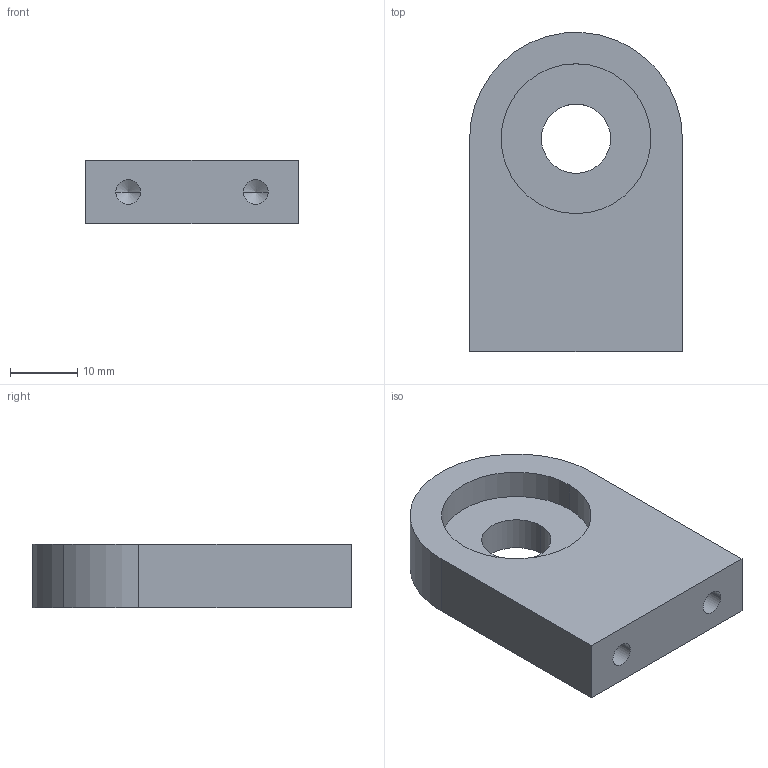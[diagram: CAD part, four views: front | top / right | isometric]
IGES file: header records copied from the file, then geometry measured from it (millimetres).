
Global section: file name: C:\Documents and Settings\Administrator\Desktop\Transfer Temp\pillowblock-I.igs; native system: AutoDesk Inventor R2.0 ; preprocessor: AutoDesk Inventor Iges Exporter R2.0; author: No Author specified; organization: No Organization specified; date: 20020111.214609; units: inch
Bounding box: 31.75 x 47.6 x 9.53 mm (x, y, z)
Surface area: 4797 mm2 (no closed solid volume)
Topology: 0 solids, 0 shells, 20 faces, 90 edges, 86 vertices
Faces by surface type: bspline 18, revolution 2
